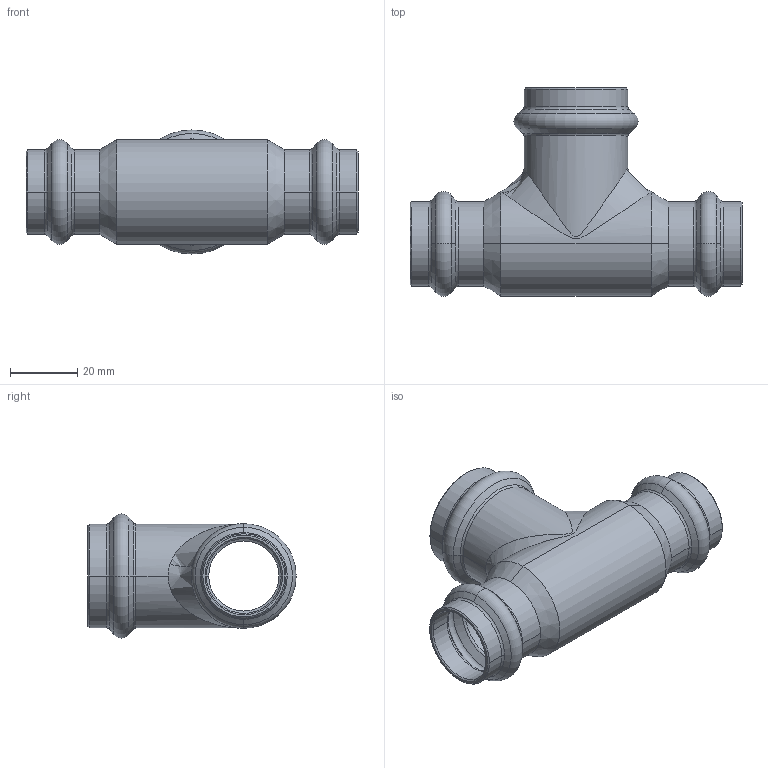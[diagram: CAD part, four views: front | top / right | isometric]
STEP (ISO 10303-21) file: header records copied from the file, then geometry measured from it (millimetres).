
FILE_DESCRIPTION (( 'STEP AP203' ), '1' );
FILE_NAME ('SP5130 Ø22-28-22.STEP', '2017-04-24T12:51:48', ( '' ), ( '' ), 'SwSTEP 2.0', 'SolidWorks 2016', '' );
FILE_SCHEMA (( 'CONFIG_CONTROL_DESIGN' ));
Length unit declared in the file: millimetre
Products named in the file (1): SP5130 Ø22-28-22
Bounding box: 99 x 62.1 x 37 mm (x, y, z)
Volume: 22577.1 mm3; surface area: 23732.3 mm2
Topology: 1 solids, 1 shells, 128 faces, 292 edges, 168 vertices
Faces by surface type: cone 50, torus 36, cylinder 32, plane 6, bspline 4
Entity records: 5173 total; most frequent: CARTESIAN_POINT 2145, DIRECTION 702, ORIENTED_EDGE 584, AXIS2_PLACEMENT_3D 313, EDGE_CURVE 292, CIRCLE 188, VERTEX_POINT 168, EDGE_LOOP 134
